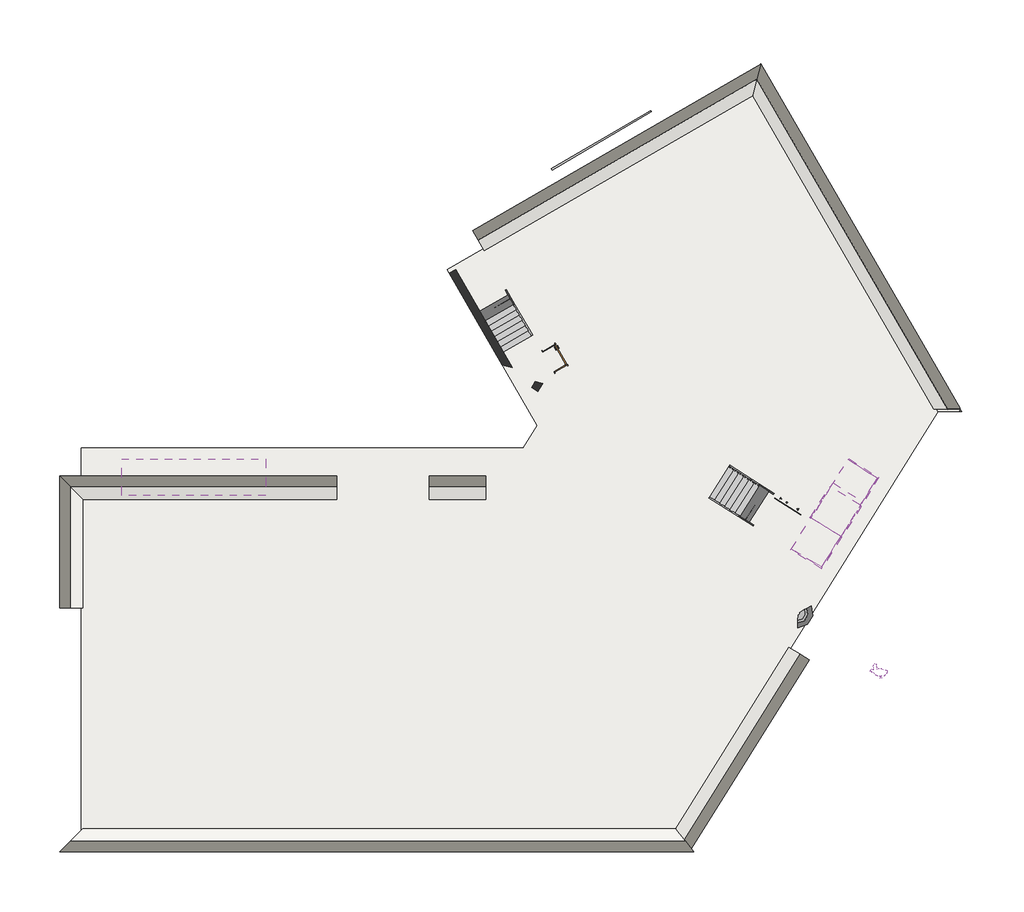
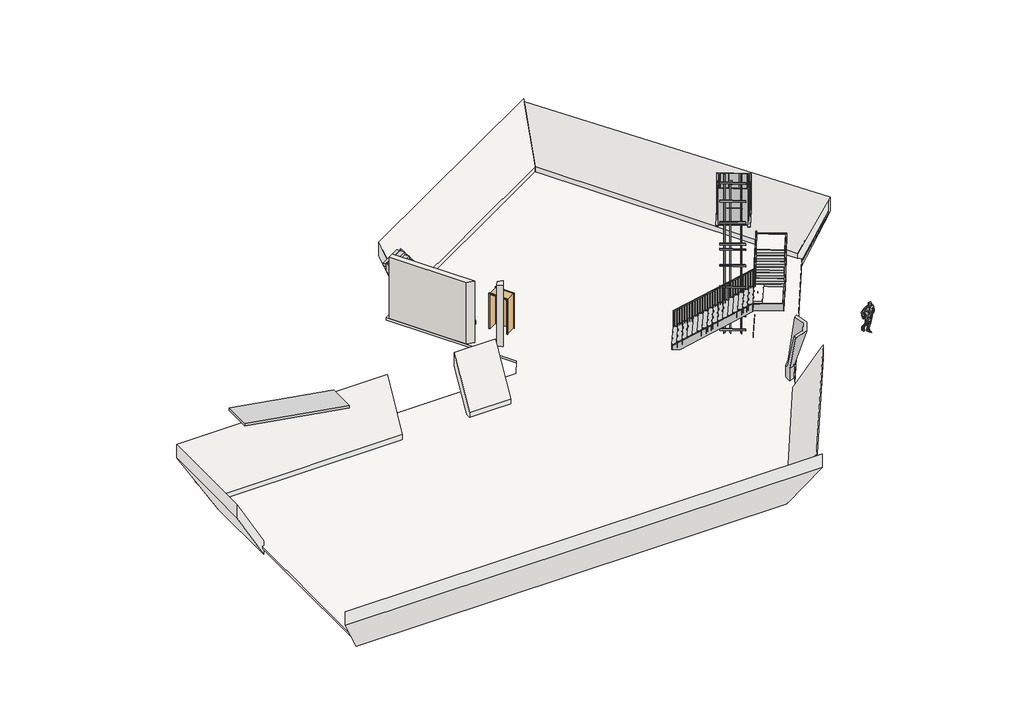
# One storey, incomplete: 11 members, 10 slabs, 3 stair flights, 2 proxies, 2 railings, 2 walls, 1 door, 1 geographic element, 1 ramp.
"""IFC4 building model written with IfcOpenShell, lengths in millimetres."""

from ifc_helpers import new_model, si_unit, frame, origin, place, context, project, spatial, polyline, outline, extrude, faceted_brep, transform, mapped, element, save
from components import specialty_equipment_7eabac19, generic_models_1_generic_models_1_35054e6f, doors_intsgl_1010x2110mm_08e46b23, geographic_element_3de9c337, standard_389605a6, slab_3882e8d7, slab_8440ce68, wood_steps_w_50mm_tread_10mm_nosing_13mm_riser_6bf3e914, wood_steps_w_50mm_tread_10mm_nosing_13mm_riser_5f3a79e2, wood_steps_w_50mm_tread_10mm_nosing_13mm_riser_c3aca261

model = new_model("IFC4")

# Units and contexts
model_context = context("Model", 3, world=origin())
ifc_project = project(units=[si_unit("LENGTHUNIT", "METRE", prefix="MILLI")], contexts=[model_context])

# Site, building, storey
site = spatial("IfcSite", under=ifc_project)
building = spatial("IfcBuilding", under=site)
storey = spatial("IfcBuildingStorey", under=building, Name="UG FL LV", Elevation=-3000.0)

# Proxies
placement = place(None, origin())
specialty_equipment_shape = specialty_equipment_7eabac19(model_context)
element("IfcBuildingElementProxy", 1, Name="Orion_Savaria : Orion_Savaria", ObjectType="Orion_Savaria : Orion_Savaria", at=placement, inside=storey, context=model_context, shape_type="MappedRepresentation", body=[
    mapped(specialty_equipment_shape, transform((16119.427282, 10031.1841822, -3000.0), x_axis=(-0.8447128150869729, 0.5352198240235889, 0.0), y_axis=(-0.5352198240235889, -0.8447128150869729, 0.0), z_axis=(0.0, 0.0, 1.0))),
])
generic_models_1_generic_models_1_shape = generic_models_1_generic_models_1_35054e6f(model_context)
element("IfcBuildingElementProxy", 2, Name="Generic Models 1 : Generic Models 1", ObjectType="Generic Models 1 : Generic Models 1", at=placement, inside=storey, context=model_context, shape_type="MappedRepresentation", body=[
    mapped(generic_models_1_generic_models_1_shape, transform((0.0, 0.0, 0.0), x_axis=(1.0, 0.0, 0.0), y_axis=(0.0, 1.0, 0.0), z_axis=(0.0, 0.0, 1.0))),
])

# Door
doors_intsgl_1010x2110mm_shape = doors_intsgl_1010x2110mm_08e46b23(model_context)
element("IfcDoor", 3, ObjectType="Doors_IntSgl : 1010x2110mm", at=placement, inside=storey, context=model_context, shape_type="MappedRepresentation", body=[
    mapped(doors_intsgl_1010x2110mm_shape, transform((6044.3442342, 15416.8132214, -3000.0), x_axis=(0.4999999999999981, -0.8660254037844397, 0.0), y_axis=(0.8660254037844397, 0.4999999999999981, 0.0), z_axis=(0.0, 0.0, 1.0))),
])

# Geographic element
geographic_element_shape = geographic_element_3de9c337(model_context)
element("IfcGeographicElement", 4, ObjectType="Enscape AssetDefinition - Alex 004 Walking : Enscape AssetDefinition - Alex 004 Walking", at=placement, inside=storey, context=model_context, shape_type="MappedRepresentation", body=[
    mapped(geographic_element_shape, transform((19404.782088, 2490.0288254, 0.0), x_axis=(1.0, 0.0, 0.0), y_axis=(0.0, 1.0, 0.0), z_axis=(0.0, 0.0, 1.0))),
])

# Members
element("IfcMember", 5, ObjectType="Stringer-50mm_Width", at=placement, inside=storey, context=model_context, shape_type="SweptSolid", body=[
    extrude(outline(polyline([(266.6666666, -399.9999999), (137.3888461, -206.0832691), (446.5137498, 0.0), (4747.3091793, 0.0), (5013.975846, -400.0), (266.6666666, -399.9999999)])), frame((13234.0785459, 10958.979951, -3247.6812646), z_axis=(0.538686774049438, 0.8425061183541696, 0.0), x_axis=(0.7010074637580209, -0.4482144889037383, 0.5547001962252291)), (0.0, 0.0, 1.0), 50.0),
])
element("IfcMember", 6, ObjectType="Stringer-50mm_Width", at=placement, inside=storey, context=model_context, shape_type="SweptSolid", body=[
    extrude(outline(polyline([(266.6666666, -399.9999999), (137.3888461, -206.0832691), (446.5137497, 0.0), (4807.4017006, 0.0), (5060.7801188, -380.0676273), (5030.8815597, -400.0), (266.6666666, -399.9999999)])), frame((12399.1140462, 9653.0954675, -3247.6812646), z_axis=(0.538686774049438, 0.8425061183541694, 0.0), x_axis=(0.7010074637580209, -0.44821448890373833, 0.5547001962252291)), (0.0, 0.0, 1.0), 50.0),
])
element("IfcMember", 7, ObjectType="Stringer-50mm_Width", at=placement, inside=storey, context=model_context, shape_type="SweptSolid", body=[
    extrude(outline(polyline([(266.6666667, -400.0), (0.0, 0.0), (1802.7756378, 0.0), (2069.4423045, -400.0), (266.6666667, -400.0)])), frame((16624.3151342, 8816.2716006, -414.3479313), z_axis=(-0.8487697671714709, 0.5287625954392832, 0.0), x_axis=(0.43995707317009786, 0.7062191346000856, 0.554700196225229)), (0.0, 0.0, 1.0), 50.0),
])
element("IfcMember", 8, ObjectType="Stringer-50mm_Width", at=placement, inside=storey, context=model_context, shape_type="SweptSolid", body=[
    extrude(outline(polyline([(266.6666667, -400.0), (0.0, 0.0), (1802.7756377, 0.0), (2069.4423044, -400.0000001), (266.6666667, -400.0)])), frame((17897.469785, 8023.1277075, -414.3479313), z_axis=(-0.8487697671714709, 0.5287625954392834, 0.0), x_axis=(0.43995707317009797, 0.7062191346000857, 0.5547001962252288)), (0.0, 0.0, 1.0), 50.0),
])
element("IfcMember", 9, ObjectType="Stringer-50mm_Width", at=placement, inside=storey, context=model_context, shape_type="SweptSolid", body=[
    extrude(outline(polyline([(17063.9594783, 6720.318868), (17047.5371173, 6788.5180879), (17839.2596557, 8059.3911799), (17881.6981441, 8032.9530501), (17063.9594783, 6720.318868)])), frame((0.0, 0.0, -524.2301585), z_axis=(0.0, 0.0, 1.0), x_axis=(1.0, 0.0, 0.0)), (0.0, 0.0, 1.0), 400.0),
])
element("IfcMember", 10, ObjectType="Stringer-50mm_Width", at=placement, inside=storey, context=model_context, shape_type="SweptSolid", body=[
    extrude(outline(polyline([(15769.1280891, 7498.3320581), (15796.0728583, 7540.4736773), (17047.5371173, 6788.5180879), (17063.9594783, 6720.318868), (15769.1280891, 7498.3320581)])), frame((0.0, 0.0, -524.2301585), z_axis=(0.0, 0.0, 1.0), x_axis=(1.0, 0.0, 0.0)), (0.0, 0.0, 1.0), 400.0),
])
element("IfcMember", 11, ObjectType="Stringer-50mm_Width", at=placement, inside=storey, context=model_context, shape_type="SweptSolid", body=[
    extrude(outline(polyline([(16599.8601121, 8890.4152653), (16615.3653295, 8821.8471079), (16604.1030194, 8804.2328548), (16561.9777134, 8831.1671935), (16599.8601121, 8890.4152653)])), frame((0.0, 0.0, -524.2301585), z_axis=(0.0, 0.0, 1.0), x_axis=(1.0, 0.0, 0.0)), (0.0, 0.0, 1.0), 400.0),
])
element("IfcMember", 12, ObjectType="Stringer-50mm_Width", at=placement, inside=storey, context=model_context, shape_type="SweptSolid", body=[
    extrude(outline(polyline([(19415.3948537, 10482.6081845), (19346.8266963, 10467.1029671), (18148.514524, 11233.2872171), (18175.4488627, 11275.412523), (19415.3948537, 10482.6081845)])), frame((0.0, 0.0, 642.4365081), z_axis=(0.0, 0.0, 1.0), x_axis=(1.0, 0.0, 0.0)), (0.0, 0.0, 1.0), 400.0),
])
element("IfcMember", 13, ObjectType="Stringer-50mm_Width", at=placement, inside=storey, context=model_context, shape_type="SweptSolid", body=[
    extrude(outline(polyline([(18692.2302202, 9321.784248), (18649.7917319, 9348.2223777), (19346.8266963, 10467.1029671), (19415.3948537, 10482.6081845), (18692.2302202, 9321.784248)])), frame((0.0, 0.0, 642.4365081), z_axis=(0.0, 0.0, 1.0), x_axis=(1.0, 0.0, 0.0)), (0.0, 0.0, 1.0), 400.0),
])
element("IfcMember", 14, ObjectType="Stringer-50mm_Width", at=placement, inside=storey, context=model_context, shape_type="SweptSolid", body=[
    extrude(outline(polyline([(-129.2778206, -193.9167308), (0.0, 0.0), (5107.864307, 0.0), (4841.1976403, -400.0), (179.8470831, -399.9999999), (-129.2778206, -193.9167308)])), frame((3873.8311916, 15642.728285, -2766.9410946), z_axis=(0.8660254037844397, 0.4999999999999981, 0.0), x_axis=(-0.4160251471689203, 0.720576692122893, 0.5547001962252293)), (0.0, 0.0, 1.0), 50.0),
])
element("IfcMember", 15, ObjectType="Stringer-50mm_Width", at=placement, inside=storey, context=model_context, shape_type="SweptSolid", body=[
    extrude(outline(polyline([(-129.2778206, -193.9167308), (0.0, 0.0), (5107.864307, 0.0), (4841.1976403, -400.0), (179.8470831, -400.0), (-129.2778206, -193.9167308)])), frame((5079.1323551, 16338.6092362, -2766.9410946), z_axis=(0.8660254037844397, 0.4999999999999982, 0.0), x_axis=(-0.4160251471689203, 0.7205766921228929, 0.5547001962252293)), (0.0, 0.0, 1.0), 50.0),
])

# Railings
element("IfcRailing", 16, ObjectType="1100mm", at=placement, inside=storey, context=model_context, shape_type="SolidModel", body=[
    faceted_brep([(13233.8630712, 10958.6429485, -1733.3333333), (13233.8630712, 10958.6429485, -1793.4258546), (13206.9287325, 10916.5176426, -1793.4258546), (13206.9287325, 10916.5176426, -1733.3333333), (16603.7752823, 8803.9676313, 933.2445013), (16577.0654683, 8761.6987675, 933.4221654), (16589.8203835, 8753.5434508, 883.422481), (16616.5301976, 8795.8123147, 883.2448169)], [[[0, 1, 2, 3]], [[4, 5, 6, 7]], [[1, 0, 4, 7]], [[2, 1, 7, 6]], [[3, 2, 6, 5]], [[0, 3, 5, 4]]]),
    faceted_brep([(16615.2669214, 8821.4371434, 933.3333333), (16628.1166636, 8813.4320714, 883.3333333), (16601.45234, 8771.1344963, 883.3333333), (16588.6025977, 8779.1395682, 933.3333333), (16624.4431371, 8815.7205877, 933.3333333), (16598.0050073, 8773.2820993, 933.3333333), (16640.4434957, 8746.8439696, 883.3333333), (16666.8816254, 8789.2824579, 883.3333333)], [[[0, 1, 2, 3]], [[4, 5, 6, 7]], [[1, 0, 4, 7]], [[2, 1, 7, 6]], [[3, 2, 6, 5]], [[0, 3, 5, 4]]]),
    faceted_brep([(16624.4431371, 8815.7205877, 933.3333333), (16666.8816254, 8789.2824579, 883.3333333), (16640.4434957, 8746.8439696, 883.3333333), (16598.0050073, 8773.2820993, 933.3333333), (16624.4431371, 8815.7205877, 1039.6408121), (16598.0050073, 8773.2820993, 1066.4), (16640.4434957, 8746.8439696, 1066.4), (16666.8816254, 8789.2824579, 1039.6408121)], [[[0, 1, 2, 3]], [[4, 5, 6, 7]], [[1, 0, 4, 7]], [[2, 1, 7, 6]], [[3, 2, 6, 5]], [[0, 3, 5, 4]]]),
    faceted_brep([(16598.0050073, 8773.2820993, 1066.4), (16624.4431371, 8815.7205877, 1039.6408121), (16666.8816254, 8789.2824579, 1039.6408121), (16640.4434957, 8746.8439696, 1066.4), (17417.7985353, 10089.2147464, 2100.0), (17460.2370236, 10062.7766166, 2100.0), (17460.2370236, 10062.7766166, 2039.9074787), (17417.7985353, 10089.2147464, 2039.9074787)], [[[0, 1, 2, 3]], [[4, 5, 6, 7]], [[1, 0, 4, 7]], [[2, 1, 7, 6]], [[3, 2, 6, 5]], [[0, 3, 5, 4]]]),
    extrude(outline(polyline([(1247.9741454, 25.0), (1247.9741454, 0.0), (91.6666666, 0.0), (108.3333333, 25.0), (1247.9741454, 25.0)])), frame((17409.7587018, 10005.3889086, 2081.3074787), z_axis=(-0.8487697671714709, 0.5287625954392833, 0.0), x_axis=(0.0, 0.0, -1.0)), (0.0, 0.0, 1.0), 25.0),
    extrude(outline(polyline([(1164.6408121, 25.0), (1164.6408121, 0.0), (91.6666667, 0.0), (108.3333333, 25.0), (1164.6408121, 25.0)])), frame((17343.6633774, 9899.2926877, 1997.9741454), z_axis=(-0.8487697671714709, 0.5287625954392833, 0.0), x_axis=(0.0, 0.0, -1.0)), (0.0, 0.0, 1.0), 25.0),
    extrude(outline(polyline([(1247.9741454, 25.0), (1247.9741454, 0.0), (91.6666667, 0.0), (108.3333334, 25.0), (1247.9741454, 25.0)])), frame((17277.568053, 9793.1964668, 1914.6408121), z_axis=(-0.8487697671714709, 0.5287625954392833, 0.0), x_axis=(0.0, 0.0, -1.0)), (0.0, 0.0, 1.0), 25.0),
    extrude(outline(polyline([(1164.640812, 25.0), (1164.640812, 0.0), (91.6666666, 0.0), (108.3333333, 25.0), (1164.640812, 25.0)])), frame((17211.4727286, 9687.1002459, 1831.3074787), z_axis=(-0.8487697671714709, 0.5287625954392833, 0.0), x_axis=(0.0, 0.0, -1.0)), (0.0, 0.0, 1.0), 25.0),
    extrude(outline(polyline([(1247.9741454, 25.0), (1247.9741454, 0.0), (91.6666667, 0.0), (108.3333333, 25.0), (1247.9741454, 25.0)])), frame((17145.3774041, 9581.004025, 1747.9741454), z_axis=(-0.8487697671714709, 0.5287625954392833, 0.0), x_axis=(0.0, 0.0, -1.0)), (0.0, 0.0, 1.0), 25.0),
    extrude(outline(polyline([(1164.6408121, 25.0), (1164.6408121, 0.0), (91.6666667, 0.0), (108.3333334, 25.0), (1164.6408121, 25.0)])), frame((17079.2820797, 9474.9078041, 1664.6408121), z_axis=(-0.8487697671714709, 0.5287625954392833, 0.0), x_axis=(0.0, 0.0, -1.0)), (0.0, 0.0, 1.0), 25.0),
    extrude(outline(polyline([(1247.9741454, 25.0), (1247.9741454, 0.0), (91.6666666, 0.0), (108.3333333, 25.0), (1247.9741454, 25.0)])), frame((17013.1867553, 9368.8115832, 1581.3074787), z_axis=(-0.8487697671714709, 0.5287625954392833, 0.0), x_axis=(0.0, 0.0, -1.0)), (0.0, 0.0, 1.0), 25.0),
    extrude(outline(polyline([(1164.6408121, 25.0), (1164.6408121, 0.0), (91.6666667, 0.0), (108.3333333, 25.0), (1164.6408121, 25.0)])), frame((16947.0914308, 9262.7153623, 1497.9741454), z_axis=(-0.8487697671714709, 0.5287625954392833, 0.0), x_axis=(0.0, 0.0, -1.0)), (0.0, 0.0, 1.0), 25.0),
    extrude(outline(polyline([(1247.9741454, 25.0), (1247.9741454, 0.0), (91.6666667, 0.0), (108.3333334, 25.0), (1247.9741454, 25.0)])), frame((16880.9961064, 9156.6191414, 1414.6408121), z_axis=(-0.8487697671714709, 0.5287625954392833, 0.0), x_axis=(0.0, 0.0, -1.0)), (0.0, 0.0, 1.0), 25.0),
    extrude(outline(polyline([(1164.640812, 25.0), (1164.640812, 0.0), (91.6666666, 0.0), (108.3333333, 25.0), (1164.640812, 25.0)])), frame((16814.900782, 9050.5229205, 1331.3074787), z_axis=(-0.8487697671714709, 0.5287625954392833, 0.0), x_axis=(0.0, 0.0, -1.0)), (0.0, 0.0, 1.0), 25.0),
    extrude(outline(polyline([(1247.9741454, 25.0), (1247.9741454, 0.0), (91.6666667, 0.0), (108.3333333, 25.0), (1247.9741454, 25.0)])), frame((16748.8054575, 8944.4266996, 1247.9741454), z_axis=(-0.8487697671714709, 0.5287625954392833, 0.0), x_axis=(0.0, 0.0, -1.0)), (0.0, 0.0, 1.0), 25.0),
    extrude(outline(polyline([(1164.6408121, 25.0), (1164.6408121, 0.0), (91.6666667, 0.0), (108.3333334, 25.0), (1164.6408121, 25.0)])), frame((16682.7101331, 8838.3304787, 1164.6408121), z_axis=(-0.8487697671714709, 0.5287625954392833, 0.0), x_axis=(0.0, 0.0, -1.0)), (0.0, 0.0, 1.0), 25.0),
    extrude(outline(polyline([(1264.9074787, 25.0000001), (1264.9074787, 0.0), (91.6666667, 0.0), (108.3333333, 25.0000001), (1264.9074787, 25.0000001)])), frame((16541.5614847, 8799.2362116, 931.5741454), z_axis=(0.5386867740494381, 0.8425061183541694, 0.0), x_axis=(0.0, 0.0, -1.0)), (0.0, 0.0, 1.0), 25.0),
    extrude(outline(polyline([(1181.5741454, 25.0), (1181.5741454, 0.0), (91.6666667, 0.0), (108.3333334, 25.0), (1181.5741454, 25.0)])), frame((16436.2482199, 8866.5720584, 848.2408121), z_axis=(0.5386867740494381, 0.8425061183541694, 0.0), x_axis=(0.0, 0.0, -1.0)), (0.0, 0.0, 1.0), 25.0),
    extrude(outline(polyline([(1264.9074787, 25.0000001), (1264.9074787, 0.0), (91.6666666, 0.0), (108.3333333, 25.0000001), (1264.9074787, 25.0000001)])), frame((16330.9349551, 8933.9079051, 764.9074787), z_axis=(0.5386867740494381, 0.8425061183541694, 0.0), x_axis=(0.0, 0.0, -1.0)), (0.0, 0.0, 1.0), 25.0),
    extrude(outline(polyline([(1181.5741454, 24.9999999), (1181.5741454, 0.0), (91.6666667, 0.0), (108.3333333, 24.9999999), (1181.5741454, 24.9999999)])), frame((16225.6216903, 9001.2437519, 681.5741454), z_axis=(0.5386867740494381, 0.8425061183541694, 0.0), x_axis=(0.0, 0.0, -1.0)), (0.0, 0.0, 1.0), 25.0),
    extrude(outline(polyline([(1264.9074788, 25.0), (1264.9074788, 0.0), (91.6666667, 0.0), (108.3333334, 25.0), (1264.9074788, 25.0)])), frame((16120.3084255, 9068.5795986, 598.2408121), z_axis=(0.5386867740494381, 0.8425061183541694, 0.0), x_axis=(0.0, 0.0, -1.0)), (0.0, 0.0, 1.0), 25.0),
    extrude(outline(polyline([(1181.5741454, 24.9999999), (1181.5741454, 0.0), (91.6666666, 0.0), (108.3333333, 24.9999999), (1181.5741454, 24.9999999)])), frame((16014.9951607, 9135.9154454, 514.9074787), z_axis=(0.5386867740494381, 0.8425061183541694, 0.0), x_axis=(0.0, 0.0, -1.0)), (0.0, 0.0, 1.0), 25.0),
    extrude(outline(polyline([(1264.9074787, 25.0), (1264.9074787, 0.0), (91.6666667, 0.0), (108.3333333, 25.0), (1264.9074787, 25.0)])), frame((15909.6818959, 9203.2512921, 431.5741454), z_axis=(0.5386867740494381, 0.8425061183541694, 0.0), x_axis=(0.0, 0.0, -1.0)), (0.0, 0.0, 1.0), 25.0),
    extrude(outline(polyline([(1181.5741454, 25.0), (1181.5741454, 0.0), (91.6666667, 0.0), (108.3333334, 25.0), (1181.5741454, 25.0)])), frame((15804.3686311, 9270.5871389, 348.2408121), z_axis=(0.5386867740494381, 0.8425061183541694, 0.0), x_axis=(0.0, 0.0, -1.0)), (0.0, 0.0, 1.0), 25.0),
    extrude(outline(polyline([(1264.9074787, 24.9999999), (1264.9074787, 0.0), (91.6666666, 0.0), (108.3333333, 24.9999999), (1264.9074787, 24.9999999)])), frame((15699.0553663, 9337.9229857, 264.9074787), z_axis=(0.5386867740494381, 0.8425061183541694, 0.0), x_axis=(0.0, 0.0, -1.0)), (0.0, 0.0, 1.0), 25.0),
    extrude(outline(polyline([(1181.5741454, 25.0), (1181.5741454, 0.0), (91.6666667, 0.0), (108.3333333, 25.0), (1181.5741454, 25.0)])), frame((15593.7421015, 9405.2588324, 181.5741454), z_axis=(0.5386867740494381, 0.8425061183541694, 0.0), x_axis=(0.0, 0.0, -1.0)), (0.0, 0.0, 1.0), 25.0),
    extrude(outline(polyline([(1264.9074788, 25.0), (1264.9074788, 0.0), (91.6666667, 0.0), (108.3333334, 25.0), (1264.9074788, 25.0)])), frame((15488.4288368, 9472.5946792, 98.2408121), z_axis=(0.5386867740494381, 0.8425061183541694, 0.0), x_axis=(0.0, 0.0, -1.0)), (0.0, 0.0, 1.0), 25.0),
    extrude(outline(polyline([(1181.5741454, 25.0000001), (1181.5741454, 0.0), (91.6666666, 0.0), (108.3333333, 25.0000001), (1181.5741454, 25.0000001)])), frame((15383.115572, 9539.9305259, 14.9074787), z_axis=(0.5386867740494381, 0.8425061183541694, 0.0), x_axis=(0.0, 0.0, -1.0)), (0.0, 0.0, 1.0), 25.0),
    extrude(outline(polyline([(1264.9074787, 25.0), (1264.9074787, 0.0), (91.6666667, 0.0), (108.3333333, 25.0), (1264.9074787, 25.0)])), frame((15277.8023072, 9607.2663727, -68.4258546), z_axis=(0.5386867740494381, 0.8425061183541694, 0.0), x_axis=(0.0, 0.0, -1.0)), (0.0, 0.0, 1.0), 25.0),
    extrude(outline(polyline([(1181.5741454, 25.0000001), (1181.5741454, 0.0), (91.6666667, 0.0), (108.3333334, 25.0000001), (1181.5741454, 25.0000001)])), frame((15172.4890424, 9674.6022194, -151.7591879), z_axis=(0.5386867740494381, 0.8425061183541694, 0.0), x_axis=(0.0, 0.0, -1.0)), (0.0, 0.0, 1.0), 25.0),
    extrude(outline(polyline([(1264.9074787, 25.0), (1264.9074787, 0.0), (91.6666666, 0.0), (108.3333333, 25.0), (1264.9074787, 25.0)])), frame((15067.1757776, 9741.9380662, -235.0925213), z_axis=(0.5386867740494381, 0.8425061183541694, 0.0), x_axis=(0.0, 0.0, -1.0)), (0.0, 0.0, 1.0), 25.0),
    extrude(outline(polyline([(1181.5741454, 25.0), (1181.5741454, 0.0), (91.6666667, 0.0), (108.3333333, 25.0), (1181.5741454, 25.0)])), frame((14961.8625128, 9809.273913, -318.4258546), z_axis=(0.5386867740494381, 0.8425061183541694, 0.0), x_axis=(0.0, 0.0, -1.0)), (0.0, 0.0, 1.0), 25.0),
    extrude(outline(polyline([(1264.9074788, 25.0000001), (1264.9074788, 0.0), (91.6666667, 0.0), (108.3333334, 25.0000001), (1264.9074788, 25.0000001)])), frame((14856.549248, 9876.6097597, -401.7591879), z_axis=(0.5386867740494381, 0.8425061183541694, 0.0), x_axis=(0.0, 0.0, -1.0)), (0.0, 0.0, 1.0), 25.0),
    extrude(outline(polyline([(1181.5741454, 25.0), (1181.5741454, 0.0), (91.6666666, 0.0), (108.3333333, 25.0), (1181.5741454, 25.0)])), frame((14751.2359832, 9943.9456065, -485.0925213), z_axis=(0.5386867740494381, 0.8425061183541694, 0.0), x_axis=(0.0, 0.0, -1.0)), (0.0, 0.0, 1.0), 25.0),
    extrude(outline(polyline([(1264.9074787, 25.0000001), (1264.9074787, 0.0), (91.6666667, 0.0), (108.3333333, 25.0000001), (1264.9074787, 25.0000001)])), frame((14645.9227184, 10011.2814532, -568.4258546), z_axis=(0.5386867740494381, 0.8425061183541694, 0.0), x_axis=(0.0, 0.0, -1.0)), (0.0, 0.0, 1.0), 25.0),
    extrude(outline(polyline([(1181.5741454, 25.0), (1181.5741454, 0.0), (91.6666667, 0.0), (108.3333334, 25.0), (1181.5741454, 25.0)])), frame((14540.6094536, 10078.6173, -651.7591879), z_axis=(0.5386867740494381, 0.8425061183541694, 0.0), x_axis=(0.0, 0.0, -1.0)), (0.0, 0.0, 1.0), 25.0),
    extrude(outline(polyline([(1264.9074787, 25.0), (1264.9074787, 0.0), (91.6666666, 0.0), (108.3333333, 25.0), (1264.9074787, 25.0)])), frame((14435.2961888, 10145.9531467, -735.0925213), z_axis=(0.5386867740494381, 0.8425061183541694, 0.0), x_axis=(0.0, 0.0, -1.0)), (0.0, 0.0, 1.0), 25.0),
    extrude(outline(polyline([(1181.5741454, 24.9999999), (1181.5741454, 0.0), (91.6666667, 0.0), (108.3333333, 24.9999999), (1181.5741454, 24.9999999)])), frame((14329.982924, 10213.2889935, -818.4258546), z_axis=(0.5386867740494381, 0.8425061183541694, 0.0), x_axis=(0.0, 0.0, -1.0)), (0.0, 0.0, 1.0), 25.0),
    extrude(outline(polyline([(1264.9074788, 25.0), (1264.9074788, 0.0), (91.6666667, 0.0), (108.3333334, 25.0), (1264.9074788, 25.0)])), frame((14224.6696592, 10280.6248402, -901.7591879), z_axis=(0.5386867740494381, 0.8425061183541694, 0.0), x_axis=(0.0, 0.0, -1.0)), (0.0, 0.0, 1.0), 25.0),
    extrude(outline(polyline([(1181.5741454, 25.0), (1181.5741454, 0.0), (91.6666666, 0.0), (108.3333333, 25.0), (1181.5741454, 25.0)])), frame((14119.3563944, 10347.960687, -985.0925213), z_axis=(0.5386867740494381, 0.8425061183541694, 0.0), x_axis=(0.0, 0.0, -1.0)), (0.0, 0.0, 1.0), 25.0),
    extrude(outline(polyline([(1264.9074787, 24.9999999), (1264.9074787, 0.0), (91.6666667, 0.0), (108.3333333, 24.9999999), (1264.9074787, 24.9999999)])), frame((14014.0431296, 10415.2965338, -1068.4258546), z_axis=(0.5386867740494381, 0.8425061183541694, 0.0), x_axis=(0.0, 0.0, -1.0)), (0.0, 0.0, 1.0), 25.0),
    extrude(outline(polyline([(1181.5741454, 25.0), (1181.5741454, 0.0), (91.6666667, 0.0), (108.3333334, 25.0), (1181.5741454, 25.0)])), frame((13908.7298648, 10482.6323805, -1151.7591879), z_axis=(0.5386867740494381, 0.8425061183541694, 0.0), x_axis=(0.0, 0.0, -1.0)), (0.0, 0.0, 1.0), 25.0),
    extrude(outline(polyline([(1264.9074787, 24.9999999), (1264.9074787, 0.0), (91.6666666, 0.0), (108.3333333, 24.9999999), (1264.9074787, 24.9999999)])), frame((13803.4166, 10549.9682273, -1235.0925213), z_axis=(0.5386867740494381, 0.8425061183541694, 0.0), x_axis=(0.0, 0.0, -1.0)), (0.0, 0.0, 1.0), 25.0),
    extrude(outline(polyline([(1181.5741454, 25.0000001), (1181.5741454, 0.0), (91.6666667, 0.0), (108.3333333, 25.0000001), (1181.5741454, 25.0000001)])), frame((13698.1033353, 10617.304074, -1318.4258546), z_axis=(0.5386867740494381, 0.8425061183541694, 0.0), x_axis=(0.0, 0.0, -1.0)), (0.0, 0.0, 1.0), 25.0),
    extrude(outline(polyline([(1264.9074788, 25.0), (1264.9074788, 0.0), (91.6666667, 0.0), (108.3333334, 25.0), (1264.9074788, 25.0)])), frame((13592.7900705, 10684.6399208, -1401.7591879), z_axis=(0.5386867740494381, 0.8425061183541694, 0.0), x_axis=(0.0, 0.0, -1.0)), (0.0, 0.0, 1.0), 25.0),
    extrude(outline(polyline([(1181.5741454, 25.0000001), (1181.5741454, 0.0), (91.6666666, 0.0), (108.3333333, 25.0000001), (1181.5741454, 25.0000001)])), frame((13487.4768057, 10751.9757675, -1485.0925213), z_axis=(0.5386867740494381, 0.8425061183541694, 0.0), x_axis=(0.0, 0.0, -1.0)), (0.0, 0.0, 1.0), 25.0),
    extrude(outline(polyline([(1264.9074787, 25.0), (1264.9074787, 0.0), (91.6666667, 0.0), (108.3333333, 25.0), (1264.9074787, 25.0)])), frame((13382.1635409, 10819.3116143, -1568.4258546), z_axis=(0.5386867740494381, 0.8425061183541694, 0.0), x_axis=(0.0, 0.0, -1.0)), (0.0, 0.0, 1.0), 25.0),
    extrude(outline(polyline([(1181.5741454, 25.0), (1181.5741454, 0.0), (91.6666667, 0.0), (108.3333334, 25.0), (1181.5741454, 25.0)])), frame((13276.8502761, 10886.6474611, -1651.7591879), z_axis=(0.5386867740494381, 0.8425061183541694, 0.0), x_axis=(0.0, 0.0, -1.0)), (0.0, 0.0, 1.0), 25.0),
    extrude(outline(polyline([(16628.4432267, 8798.5014332), (16649.6624709, 8785.2823683), (16636.443406, 8764.0631241), (16615.2241618, 8777.282189), (16628.4432267, 8798.5014332)])), frame((0.0, 0.0, -166.6666667), z_axis=(0.0, 0.0, 1.0), x_axis=(1.0, 0.0, 0.0)), (0.0, 0.0, 1.0), 1050.0),
    extrude(outline(polyline([(16605.9770687, 8783.2167421), (16619.4442381, 8804.2793951), (16640.506891, 8790.8122257), (16627.0397217, 8769.7495728), (16605.9770687, 8783.2167421)])), frame((0.0, 0.0, -166.6666667), z_axis=(0.0, 0.0, 1.0), x_axis=(1.0, 0.0, 0.0)), (0.0, 0.0, 1.0), 1050.0),
    extrude(outline(polyline([(1156.8408121, 25.0), (1156.8408121, 0.0), (91.6666667, 0.0), (108.3333333, 25.0), (1156.8408121, 25.0)])), frame((16615.6177725, 8751.8856442, 990.1741454), z_axis=(0.5386867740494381, 0.8425061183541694, 0.0), x_axis=(0.0, 0.0, -1.0)), (0.0, 0.0, 1.0), 25.0),
    extrude(outline(polyline([(1298.2408121, 24.9999999), (1298.2408121, 0.0), (91.6666667, 0.0), (108.3333333, 24.9999999), (1298.2408121, 24.9999999)])), frame((17449.6274015, 10069.386149, 2131.5741454), z_axis=(-0.8487697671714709, 0.5287625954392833, 0.0), x_axis=(0.0, 0.0, -1.0)), (0.0, 0.0, 1.0), 25.0),
    extrude(outline(polyline([(1148.240812, 25.0), (1148.240812, 0.0), (91.6666666, 0.0), (108.3333333, 25.0), (1148.240812, 25.0)])), frame((13234.7249702, 10913.5817998, -1685.0925213), z_axis=(0.5386867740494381, 0.8425061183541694, 0.0), x_axis=(0.0, 0.0, -1.0)), (0.0, 0.0, 1.0), 25.0),
])
element("IfcRailing", 17, ObjectType="1100mm", at=placement, inside=storey, context=model_context, shape_type="SweptSolid", body=[
    extrude(outline(polyline([(5928.4040499, 23189.6214234), (5903.067934, 23232.7268898), (9998.087243, 25639.6578942), (10023.4233588, 25596.5524278), (5928.4040499, 23189.6214234)])), frame((0.0, 0.0, -1950.0), z_axis=(0.0, 0.0, 1.0), x_axis=(1.0, 0.0, 0.0)), (0.0, 0.0, 1.0), 50.0),
    extrude(outline(polyline([(9941.6547636, 25562.9905916), (9928.9867057, 25584.5433248), (9950.5394389, 25597.2113828), (9963.2074968, 25575.6586496), (9941.6547636, 25562.9905916)])), frame((0.0, 0.0, -3000.0), z_axis=(0.0, 0.0, 1.0), x_axis=(1.0, 0.0, 0.0)), (0.0, 0.0, 1.0), 1050.0),
    extrude(outline(polyline([(9704.5746984, 25423.6419545), (9691.9066405, 25445.1946878), (9713.4593737, 25457.8627457), (9726.1274316, 25436.3100125), (9704.5746984, 25423.6419545)])), frame((0.0, 0.0, -3000.0), z_axis=(0.0, 0.0, 1.0), x_axis=(1.0, 0.0, 0.0)), (0.0, 0.0, 1.0), 1050.0),
    extrude(outline(polyline([(9467.4946331, 25284.2933175), (9454.8265752, 25305.8460507), (9476.3793084, 25318.5141086), (9489.0473663, 25296.9613754), (9467.4946331, 25284.2933175)])), frame((0.0, 0.0, -3000.0), z_axis=(0.0, 0.0, 1.0), x_axis=(1.0, 0.0, 0.0)), (0.0, 0.0, 1.0), 1050.0),
    extrude(outline(polyline([(9230.4145679, 25144.9446804), (9217.7465099, 25166.4974136), (9239.2992432, 25179.1654715), (9251.9673011, 25157.6127383), (9230.4145679, 25144.9446804)])), frame((0.0, 0.0, -3000.0), z_axis=(0.0, 0.0, 1.0), x_axis=(1.0, 0.0, 0.0)), (0.0, 0.0, 1.0), 1050.0),
    extrude(outline(polyline([(8993.3345026, 25005.5960433), (8980.6664447, 25027.1487765), (9002.2191779, 25039.8168344), (9014.8872358, 25018.2641012), (8993.3345026, 25005.5960433)])), frame((0.0, 0.0, -3000.0), z_axis=(0.0, 0.0, 1.0), x_axis=(1.0, 0.0, 0.0)), (0.0, 0.0, 1.0), 1050.0),
    extrude(outline(polyline([(8756.2544374, 24866.2474062), (8743.5863794, 24887.8001394), (8765.1391126, 24900.4681973), (8777.8071706, 24878.9154641), (8756.2544374, 24866.2474062)])), frame((0.0, 0.0, -3000.0), z_axis=(0.0, 0.0, 1.0), x_axis=(1.0, 0.0, 0.0)), (0.0, 0.0, 1.0), 1050.0),
    extrude(outline(polyline([(8519.1743721, 24726.8987691), (8506.5063142, 24748.4515023), (8528.0590474, 24761.1195602), (8540.7271053, 24739.566827), (8519.1743721, 24726.8987691)])), frame((0.0, 0.0, -3000.0), z_axis=(0.0, 0.0, 1.0), x_axis=(1.0, 0.0, 0.0)), (0.0, 0.0, 1.0), 1050.0),
    extrude(outline(polyline([(8282.0943069, 24587.550132), (8269.4262489, 24609.1028652), (8290.9789821, 24621.7709231), (8303.6470401, 24600.2181899), (8282.0943069, 24587.550132)])), frame((0.0, 0.0, -3000.0), z_axis=(0.0, 0.0, 1.0), x_axis=(1.0, 0.0, 0.0)), (0.0, 0.0, 1.0), 1050.0),
    extrude(outline(polyline([(8045.0142416, 24448.2014949), (8032.3461837, 24469.7542281), (8053.8989169, 24482.422286), (8066.5669748, 24460.8695528), (8045.0142416, 24448.2014949)])), frame((0.0, 0.0, -3000.0), z_axis=(0.0, 0.0, 1.0), x_axis=(1.0, 0.0, 0.0)), (0.0, 0.0, 1.0), 1050.0),
    extrude(outline(polyline([(7807.9341763, 24308.8528578), (7795.2661184, 24330.405591), (7816.8188516, 24343.0736489), (7829.4869096, 24321.5209157), (7807.9341763, 24308.8528578)])), frame((0.0, 0.0, -3000.0), z_axis=(0.0, 0.0, 1.0), x_axis=(1.0, 0.0, 0.0)), (0.0, 0.0, 1.0), 1050.0),
    extrude(outline(polyline([(7570.8541111, 24169.5042207), (7558.1860532, 24191.0569539), (7579.7387864, 24203.7250118), (7592.4068443, 24182.1722786), (7570.8541111, 24169.5042207)])), frame((0.0, 0.0, -3000.0), z_axis=(0.0, 0.0, 1.0), x_axis=(1.0, 0.0, 0.0)), (0.0, 0.0, 1.0), 1050.0),
    extrude(outline(polyline([(7333.7740458, 24030.1555836), (7321.1059879, 24051.7083168), (7342.6587211, 24064.3763747), (7355.326779, 24042.8236415), (7333.7740458, 24030.1555836)])), frame((0.0, 0.0, -3000.0), z_axis=(0.0, 0.0, 1.0), x_axis=(1.0, 0.0, 0.0)), (0.0, 0.0, 1.0), 1050.0),
    extrude(outline(polyline([(7096.6939806, 23890.8069465), (7084.0259227, 23912.3596797), (7105.5786559, 23925.0277377), (7118.2467138, 23903.4750044), (7096.6939806, 23890.8069465)])), frame((0.0, 0.0, -3000.0), z_axis=(0.0, 0.0, 1.0), x_axis=(1.0, 0.0, 0.0)), (0.0, 0.0, 1.0), 1050.0),
    extrude(outline(polyline([(6859.6139153, 23751.4583094), (6846.9458574, 23773.0110426), (6868.4985906, 23785.6791006), (6881.1666485, 23764.1263674), (6859.6139153, 23751.4583094)])), frame((0.0, 0.0, -3000.0), z_axis=(0.0, 0.0, 1.0), x_axis=(1.0, 0.0, 0.0)), (0.0, 0.0, 1.0), 1050.0),
    extrude(outline(polyline([(6622.5338501, 23612.1096723), (6609.8657922, 23633.6624056), (6631.4185254, 23646.3304635), (6644.0865833, 23624.7777303), (6622.5338501, 23612.1096723)])), frame((0.0, 0.0, -3000.0), z_axis=(0.0, 0.0, 1.0), x_axis=(1.0, 0.0, 0.0)), (0.0, 0.0, 1.0), 1050.0),
    extrude(outline(polyline([(6385.4537848, 23472.7610353), (6372.7857269, 23494.3137685), (6394.3384601, 23506.9818264), (6407.006518, 23485.4290932), (6385.4537848, 23472.7610353)])), frame((0.0, 0.0, -3000.0), z_axis=(0.0, 0.0, 1.0), x_axis=(1.0, 0.0, 0.0)), (0.0, 0.0, 1.0), 1050.0),
    extrude(outline(polyline([(6148.3737196, 23333.4123982), (6135.7056617, 23354.9651314), (6157.2583949, 23367.6331893), (6169.9264528, 23346.0804561), (6148.3737196, 23333.4123982)])), frame((0.0, 0.0, -3000.0), z_axis=(0.0, 0.0, 1.0), x_axis=(1.0, 0.0, 0.0)), (0.0, 0.0, 1.0), 1050.0),
    extrude(outline(polyline([(9995.5365966, 25594.6607364), (9982.8685387, 25616.2134696), (10004.4212719, 25628.8815276), (10017.0893298, 25607.3287944), (9995.5365966, 25594.6607364)])), frame((0.0, 0.0, -3000.0), z_axis=(0.0, 0.0, 1.0), x_axis=(1.0, 0.0, 0.0)), (0.0, 0.0, 1.0), 1050.0),
    extrude(outline(polyline([(5922.0700209, 23200.39779), (5909.401963, 23221.9505232), (5930.9546962, 23234.6185812), (5943.6227541, 23213.0658479), (5922.0700209, 23200.39779)])), frame((0.0, 0.0, -3000.0), z_axis=(0.0, 0.0, 1.0), x_axis=(1.0, 0.0, 0.0)), (0.0, 0.0, 1.0), 1050.0),
])

# Ramp
standard_shape = standard_389605a6(model_context)
element("IfcRamp", 18, ObjectType="Standard", at=placement, inside=storey, context=model_context, shape_type="MappedRepresentation", body=[
    mapped(standard_shape, transform((0.0, 0.0, 0.0), x_axis=(1.0, 0.0, 0.0), y_axis=(0.0, 1.0, 0.0), z_axis=(0.0, 0.0, 1.0))),
])

# Slabs
slab_shape = slab_3882e8d7(model_context)
element("IfcSlab", 19, ObjectType="Non-Monolitic_Landing", at=placement, inside=storey, context=model_context, shape_type="MappedRepresentation", body=[
    mapped(slab_shape, transform((0.0, 0.0, 0.0), x_axis=(1.0, 0.0, 0.0), y_axis=(0.0, 1.0, 0.0), z_axis=(0.0, 0.0, 1.0))),
])
slab_2_shape = slab_8440ce68(model_context)
element("IfcSlab", 20, ObjectType="Non-Monolitic_Landing", at=placement, inside=storey, context=model_context, shape_type="MappedRepresentation", body=[
    mapped(slab_2_shape, transform((0.0, 0.0, 0.0), x_axis=(1.0, 0.0, 0.0), y_axis=(0.0, 1.0, 0.0), z_axis=(0.0, 0.0, 1.0))),
])
element("IfcSlab", 21, ObjectType="Floor-Grnd-Susp_65Scr-80Ins-100Blk-75PC", at=placement, inside=storey, context=model_context, shape_type="Brep", body=[
    faceted_brep([(21844.6011663, 13199.9654424, -3140.0), (21395.129417, 12478.4733487, -3140.0), (11543.7441623, -3334.9711746, -3140.0), (11076.5126916, -4084.9711746, -3140.0), (-12756.6874983, -4084.9711746, -3140.0), (-13506.6874983, -4084.9711746, -3140.0), (-13506.6874983, 8915.0288254, -3140.0), (-13506.6874983, 9665.0288254, -3140.0), (-13506.6874983, 11710.0288254, -3140.0), (4738.304432, 11710.0288254, -3140.0), (5319.0859714, 12639.4735766, -3140.0), (1607.7771934, 19067.6489426, -3140.0), (3029.5847078, 19888.5298938, -3140.0), (14244.6136868, 26363.5298938, -3140.0), (14619.6136868, 25714.0108409, -3140.0), (21844.6011663, 13199.9654424, -3000.0), (21462.08113, 13862.5095801, -3000.0), (14619.6136868, 25714.0108409, -3000.0), (14244.6136868, 26363.5298938, -3000.0), (13660.0465393, 26026.0298938, -3000.0), (3614.1518554, 20226.0298938, -3000.0), (1607.7771934, 19067.6489426, -3000.0), (5319.0859714, 12639.4735766, -3000.0), (4738.304432, 11710.0288254, -3000.0), (-13506.6874983, 11710.0288254, -3000.0), (-13506.6874983, 8915.0288254, -3000.0), (-13506.6874983, -3409.9711746, -3000.0), (-13506.6874983, -4084.9711746, -3000.0), (-12756.6874983, -4084.9711746, -3000.0), (10281.2440261, -4084.9711746, -3000.0), (11076.5126916, -4084.9711746, -3000.0), (11543.7441623, -3334.9711746, -3000.0), (16289.9894378, 4283.7021814, -3000.0), (16725.2950684, 4982.4548198, -3000.0), (21395.129417, 12478.4733487, -3000.0)], [[[0, 1, 2, 3, 4, 5, 6, 7, 8, 9, 10, 11, 12, 13, 14]], [[15, 16, 17, 18, 19, 20, 21, 22, 23, 24, 25, 26, 27, 28, 29, 30, 31, 32, 33, 34]], [[3, 2, 1, 0, 15, 34, 33, 32, 31, 30]], [[5, 4, 3, 30, 29, 28, 27]], [[8, 7, 6, 5, 27, 26, 25, 24]], [[9, 8, 24, 23]], [[10, 9, 23, 22]], [[11, 10, 22, 21]], [[13, 12, 11, 21, 20, 19, 18]], [[0, 14, 13, 18, 17, 16, 15]]]),
])
element("IfcSlab", 22, ObjectType="Standard 2", at=placement, inside=storey, context=model_context, shape_type="Brep", body=[
    faceted_brep([(11034.8726536, -4009.9711746, -3523.6504113), (12206.8010934, -5509.9711746, -823.6504113), (-14931.6874983, -5509.9711746, -823.6504113), (-13431.6874983, -4009.9711746, -3523.6504113), (11034.8726536, -4009.9711746, -2700.0), (-13431.6874983, -4009.9711746, -2700.0), (-14931.6874983, -5509.9711746, 0.0), (12206.8010934, -5509.9711746, 0.0), (12115.3256348, -5392.8879269, -210.7498459), (12098.2892008, -5371.0822857, -250.0)], [[[0, 1, 2, 3]], [[4, 5, 6, 7, 8, 9]], [[1, 0, 4, 9, 8, 7]], [[3, 2, 6, 5]], [[0, 3, 5, 4]], [[2, 1, 7, 6]]]),
])
element("IfcSlab", 23, ObjectType="Standard 2", at=placement, inside=storey, context=model_context, shape_type="Brep", body=[
    faceted_brep([(14217.1617815, 26261.0779885, -3548.842635), (14695.2543507, 28178.6025494, -979.340346), (23424.3231771, 13327.4475604, -728.4964142), (22006.4445068, 13327.4475604, -3026.8170678), (23399.0933962, 13269.3165398, -823.7953112), (23429.1218964, 13319.2832848, -728.3585152), (23483.1265536, 13227.4027473, -726.8066039), (21757.1517651, 13201.4322483, -3548.842635), (14695.2543507, 28178.6025494, -130.497711), (14673.0192445, 28089.4224092, -250.0), (14217.1617815, 26261.0779885, -2700.0), (21684.3967908, 13327.4475604, -2700.0), (23233.1739505, 13262.7995377, -250.0), (23391.2124362, 13256.2028007, 0.0), (23372.9078007, 13225.7443013, -58.1759247), (23397.8058469, 13226.1189387, -17.4666489), (23483.1265536, 13227.4027473, 122.0360311), (20848.0962075, 17710.4976627, 46.314166), (14695.2543507, 28178.6025494, -141.1583444), (14695.2543507, 28178.6025494, -250.0), (23429.1218964, 13319.2832848, 0.0), (23424.3231771, 13327.4475604, -14.9768927), (23372.9078007, 13225.7443013, -250.0), (23372.9078007, 13225.7443013, -823.7953112), (21757.1517651, 13201.4322483, -3294.6538311), (21684.3967908, 13327.4475604, -3523.7953112)], [[[0, 1, 2, 3, 4, 5, 6, 7]], [[8, 9, 10, 11, 12, 13, 14, 15, 16, 17]], [[1, 0, 10, 9, 8, 18, 19]], [[8, 17, 16, 6, 5, 20, 21, 2, 1, 19, 18]], [[7, 6, 16, 15, 14, 22, 23, 24]], [[0, 7, 24, 25, 11, 10]], [[23, 4, 3, 25, 24]], [[11, 21, 20, 13, 12]], [[25, 3, 2, 21, 11]], [[4, 23, 22, 14, 13, 20, 5]]]),
])
element("IfcSlab", 24, ObjectType="Standard 2", at=placement, inside=storey, context=model_context, shape_type="Brep", body=[
    faceted_brep([(3132.0366131, 19861.0779885, -3523.6504113), (2382.0366131, 21160.1160941, -823.6504113), (14721.6282982, 28284.3826753, -823.6504113), (14695.2543507, 28178.6025494, -964.8087557), (14217.1617815, 26261.0779885, -3523.6504113), (2382.0366131, 21160.1160941, 0.0), (2451.4810575, 21039.8347881, -250.0), (3132.0366131, 19861.0779885, -2700.0), (14217.1617815, 26261.0779885, -2700.0), (14674.9184356, 28097.0396487, -250.0), (14695.2543507, 28178.6025494, -141.1583444), (14721.6282982, 28284.3826753, 0.0), (2382.0366131, 21160.1160941, -250.0), (14721.6282982, 28284.3826753, -250.0)], [[[0, 1, 2, 3, 4]], [[5, 6, 7, 8, 9, 10, 11]], [[1, 0, 7, 6, 5, 12]], [[2, 1, 12, 5, 11, 13]], [[2, 13, 11, 10, 9, 8, 4, 3]], [[0, 4, 8, 7]]]),
])
element("IfcSlab", 25, ObjectType="Standard 2", at=placement, inside=storey, context=model_context, shape_type="Brep", body=[
    faceted_brep([(-13431.6874983, 9590.0288254, -3523.6504113), (-14931.6874983, 11090.0288254, -823.6504113), (-2951.9484639, 11090.0288254, -823.6504113), (-2951.9484639, 10090.0288254, -2623.6504113), (-2951.9484639, 9590.0288254, -3523.6504113), (-13431.6874983, 9590.0288254, -2700.0), (-2951.9484639, 9590.0288254, -2700.0), (-2951.9484639, 10090.0288254, -1800.0), (-2951.9484639, 10951.1399365, -250.0), (-2951.9484639, 11090.0288254, 0.0), (-14931.6874983, 11090.0288254, 0.0), (-14792.7986094, 10951.1399365, -250.0), (-14931.6874983, 11090.0288254, -250.0), (-2951.9484639, 11090.0288254, -250.0)], [[[0, 1, 2, 3, 4]], [[5, 6, 7, 8, 9, 10, 11]], [[1, 0, 5, 11, 10, 12]], [[2, 1, 12, 10, 9, 13]], [[3, 2, 13, 9, 8, 7]], [[4, 3, 7, 6]], [[0, 4, 6, 5]]]),
])
element("IfcSlab", 26, ObjectType="Standard 2", at=placement, inside=storey, context=model_context, shape_type="Brep", body=[
    faceted_brep([(-13431.6874983, 9590.0288254, -3523.6504113), (-13431.6874983, 5105.5548037, -3523.6504113), (-14931.6874983, 5105.5548037, -823.6504113), (-14931.6874983, 11090.0288254, -823.6504113), (-13431.6874983, 5105.5548037, -2700.0), (-13431.6874983, 9590.0288254, -2700.0), (-14931.6874983, 11090.0288254, 0.0), (-14931.6874983, 5105.5548037, 0.0)], [[[0, 1, 2, 3]], [[4, 5, 6, 7]], [[1, 0, 5, 4]], [[2, 1, 4, 7]], [[3, 2, 7, 6]], [[0, 3, 6, 5]]]),
])
element("IfcSlab", 27, ObjectType="Standard 2", at=placement, inside=storey, context=model_context, shape_type="Brep", body=[
    faceted_brep([(3202.0197862, 9590.0288254, -3523.6504113), (868.0515361, 9590.0288254, -3523.6504113), (868.0515361, 11090.0288254, -823.6504113), (3202.0197862, 11090.0288254, -823.6504113), (3202.0197862, 9590.0288254, -2700.0), (3202.0197862, 10951.1399365, -250.0), (3202.0197862, 11090.0288254, 0.0), (868.0515361, 11090.0288254, 0.0), (868.0515361, 10951.1399365, -250.0), (868.0515361, 9590.0288254, -2700.0), (868.0515361, 11090.0288254, -250.0), (3202.0197862, 11090.0288254, -250.0)], [[[0, 1, 2, 3]], [[4, 5, 6, 7, 8, 9]], [[1, 0, 4, 9]], [[2, 1, 9, 8, 7, 10]], [[3, 2, 10, 7, 6, 11]], [[0, 3, 11, 6, 5, 4]]]),
])
element("IfcSlab", 28, ObjectType="Standard 2", at=placement, inside=storey, context=model_context, shape_type="Brep", body=[
    faceted_brep([(11034.8726536, -4009.9711746, -3502.7220761), (15703.3444745, 3483.8602247, -3502.7220761), (16976.4991253, 2690.7163316, -892.8655838), (12286.0096098, -4838.4578731, -892.8655838), (12018.1213558, -5268.4721233, -892.8655838), (15703.3444745, 3483.8602247, -2700.0), (11034.8726536, -4009.9711746, -2700.0), (11957.8963246, -5191.3875986, -250.0), (12018.1213558, -5268.4721233, -90.1435077), (12286.0096098, -4838.4578731, -90.1435077), (16976.4991253, 2690.7163316, -90.1435077), (16898.5170457, 2739.2972405, -250.0), (16976.4991253, 2690.7163316, -250.0), (12018.1213558, -5268.4721233, -250.0), (12018.1213558, -5268.4721233, -434.6982923)], [[[0, 1, 2, 3, 4]], [[5, 6, 7, 8, 9, 10, 11]], [[1, 0, 6, 5]], [[2, 1, 5, 11, 10, 12]], [[3, 2, 12, 10, 9]], [[4, 3, 9, 8, 13, 14]], [[0, 4, 14, 13, 8, 7, 6]]]),
])

# Stair flights
wood_steps_w_50mm_tread_10mm_nosing_13mm_riser_shape = wood_steps_w_50mm_tread_10mm_nosing_13mm_riser_6bf3e914(model_context)
element("IfcStairFlight", 29, ObjectType="Wood_Steps_w-50mm_Tread-10mm_Nosing-13mm_Riser", at=placement, inside=storey, context=model_context, shape_type="MappedRepresentation", body=[
    mapped(wood_steps_w_50mm_tread_10mm_nosing_13mm_riser_shape, transform((0.0, 0.0, 0.0), x_axis=(1.0, 0.0, 0.0), y_axis=(0.0, 1.0, 0.0), z_axis=(0.0, 0.0, 1.0))),
])
wood_steps_w_50mm_tread_10mm_nosing_13mm_riser_2_shape = wood_steps_w_50mm_tread_10mm_nosing_13mm_riser_5f3a79e2(model_context)
element("IfcStairFlight", 30, ObjectType="Wood_Steps_w-50mm_Tread-10mm_Nosing-13mm_Riser", at=placement, inside=storey, context=model_context, shape_type="MappedRepresentation", body=[
    mapped(wood_steps_w_50mm_tread_10mm_nosing_13mm_riser_2_shape, transform((0.0, 0.0, 0.0), x_axis=(1.0, 0.0, 0.0), y_axis=(0.0, 1.0, 0.0), z_axis=(0.0, 0.0, 1.0))),
])
wood_steps_w_50mm_tread_10mm_nosing_13mm_riser_3_shape = wood_steps_w_50mm_tread_10mm_nosing_13mm_riser_c3aca261(model_context)
element("IfcStairFlight", 31, ObjectType="Wood_Steps_w-50mm_Tread-10mm_Nosing-13mm_Riser", at=placement, inside=storey, context=model_context, shape_type="MappedRepresentation", body=[
    mapped(wood_steps_w_50mm_tread_10mm_nosing_13mm_riser_3_shape, transform((0.0, 0.0, 0.0), x_axis=(1.0, 0.0, 0.0), y_axis=(0.0, 1.0, 0.0), z_axis=(0.0, 0.0, 1.0))),
])

# Walls
element("IfcWall", 32, ObjectType="Wall-Ret_300Con", at=placement, inside=storey, context=model_context, shape_type="SweptSolid", body=[
    extrude(outline(polyline([(1946.7038634, 19080.6107302), (4290.6378462, 15020.7979823), (3880.8302251, 15130.6056035), (1686.8962423, 18930.6107302), (1946.7038634, 19080.6107302)])), frame((0.0, 0.0, -3000.0), z_axis=(0.0, 0.0, 1.0), x_axis=(1.0, 0.0, 0.0)), (0.0, 0.0, 1.0), 3700.0),
])
element("IfcWall", 33, ObjectType="Wall-Ret_300Con", at=placement, inside=storey, context=model_context, shape_type="SweptSolid", body=[
    extrude(outline(polyline([(5081.5105899, 14200.3234136), (5235.7252569, 14456.9797197), (5537.1808845, 14376.2049278), (5336.4936435, 14042.2052701), (5081.5105899, 14200.3234136)])), frame((0.0, 0.0, -3000.0), z_axis=(0.0, 0.0, 1.0), x_axis=(1.0, 0.0, 0.0)), (0.0, 0.0, 1.0), 3700.0),
])

save(model, "model.ifc")
